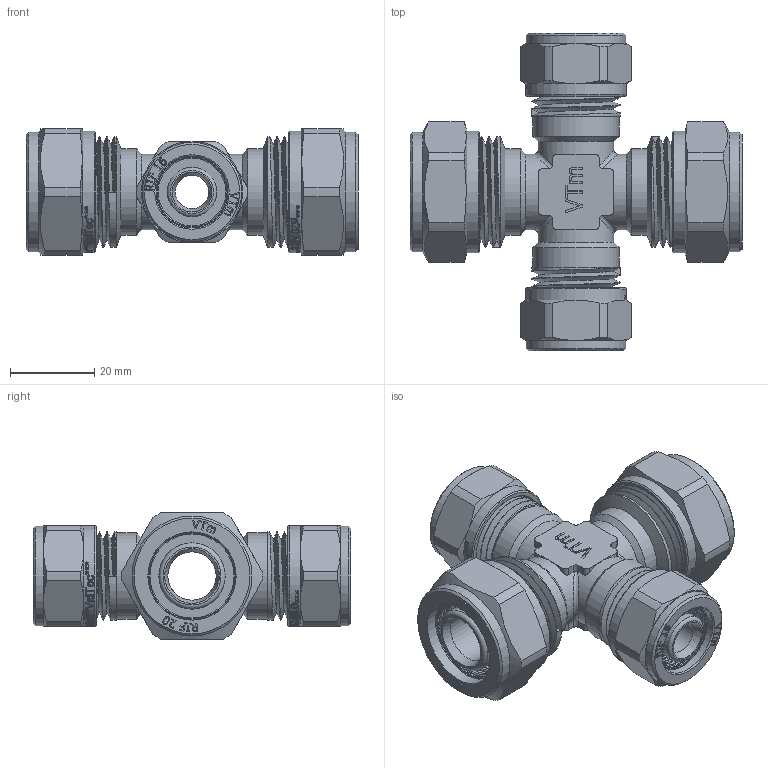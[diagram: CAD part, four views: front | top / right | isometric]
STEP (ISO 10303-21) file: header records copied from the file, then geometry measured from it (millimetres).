
FILE_DESCRIPTION(/* description */ (''),/* implementation_level */ '2;1');
FILE_NAME(/* name */ 'F:\Артём\00000\Работа удаленка\Обжимные фитинги\VTm.341.N.201620.stp',/* time_stamp */ '2020-08-03T15:44:35+03:00',/* author */ ('almis'),/* organization */ (''),/* preprocessor_version */ 'ST-DEVELOPER v18',/* originating_system */ 'Autodesk Inventor 2020',/* authorisation */ '');
FILE_SCHEMA (('AUTOMOTIVE_DESIGN { 1 0 10303 214 3 1 1 }'));
Length unit declared in the file: millimetre
Products named in the file (1): VTm.301.N.001605
Bounding box: 78.96 x 75.55 x 30 mm (x, y, z)
Volume: 40918.9 mm3; surface area: 29489.4 mm2
Topology: 1 solids, 3 shells, 2629 faces, 7359 edges, 4955 vertices
Faces by surface type: bspline 1392, plane 756, cylinder 319, torus 96, cone 66
Full cylindrical faces by diameter (mm): 8 x2, 9.4 x4, 11.5 x1, 11.75 x8, 13.4 x4, 15.75 x8, 16.124 x8, 16.2 x2, 16.724 x10, 17.124 x2, 17.4 x6, 18 x4, 18.724 x2, 19.986 x8, 20.2 x2, 20.5 x4, 20.728 x10, 21 x8, 22.8 x6, 23.624 x2, 24 x2, 26.4 x6, 28.5 x2, 29 x2
Entity records: 109529 total; most frequent: CARTESIAN_POINT 50491, ORIENTED_EDGE 14718, DIRECTION 8076, EDGE_CURVE 7359, VERTEX_POINT 4955, LINE 3164, VECTOR 3164, B_SPLINE_CURVE_WITH_KNOTS 2905
